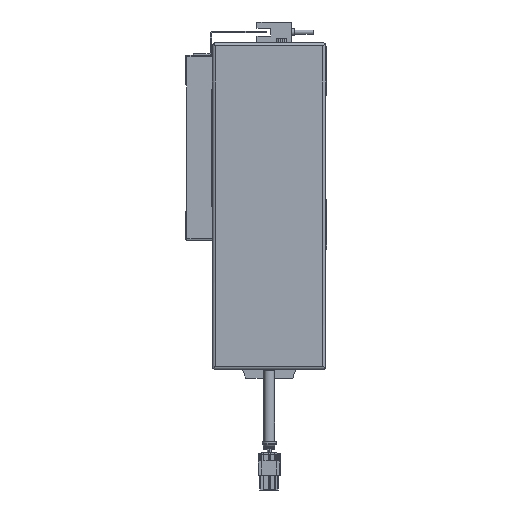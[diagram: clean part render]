
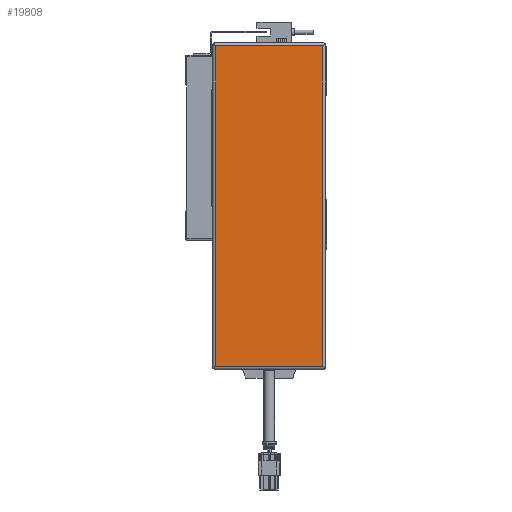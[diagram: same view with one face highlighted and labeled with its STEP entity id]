
A CAD part, left-side view. The second image highlights one B-rep face of the part: STEP entity #19808.
In plain terms, the highlighted planar face has unit normal (-1, 0, 0).
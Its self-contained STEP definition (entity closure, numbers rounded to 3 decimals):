
#4728=ORIENTED_EDGE('',*,*,#8402,.F.);
#4729=ORIENTED_EDGE('',*,*,#8403,.F.);
#4730=ORIENTED_EDGE('',*,*,#8404,.T.);
#4731=ORIENTED_EDGE('',*,*,#8405,.T.);
#8402=EDGE_CURVE('',#10583,#10584,#12684,.T.);
#8403=EDGE_CURVE('',#10585,#10583,#12685,.T.);
#8404=EDGE_CURVE('',#10585,#10586,#12686,.T.);
#8405=EDGE_CURVE('',#10586,#10584,#12687,.T.);
#10583=VERTEX_POINT('',#31608);
#10584=VERTEX_POINT('',#31609);
#10585=VERTEX_POINT('',#31611);
#10586=VERTEX_POINT('',#31613);
#12684=LINE('',#31607,#14781);
#12685=LINE('',#31610,#14782);
#12686=LINE('',#31612,#14783);
#12687=LINE('',#31614,#14784);
#14781=VECTOR('',#25759,1000.);
#14782=VECTOR('',#25760,1000.);
#14783=VECTOR('',#25761,1000.);
#14784=VECTOR('',#25762,1000.);
#16349=EDGE_LOOP('',(#4728,#4729,#4730,#4731));
#17772=FACE_BOUND('',#16349,.T.);
#18826=PLANE('',#21410);
#19808=ADVANCED_FACE('',(#17772),#18826,.F.);
#21410=AXIS2_PLACEMENT_3D('',#31606,#25757,#25758);
#25757=DIRECTION('',(1.,0.,0.));
#25758=DIRECTION('',(0.,0.,-1.));
#25759=DIRECTION('',(0.,0.,-1.));
#25760=DIRECTION('',(0.,-1.,0.));
#25761=DIRECTION('',(0.,0.,-1.));
#25762=DIRECTION('',(0.,-1.,0.));
#31606=CARTESIAN_POINT('',(-52.,2.,34.5));
#31607=CARTESIAN_POINT('',(-52.,2.,36.5));
#31608=CARTESIAN_POINT('',(-52.,2.,34.5));
#31609=CARTESIAN_POINT('',(-52.,2.,-34.5));
#31610=CARTESIAN_POINT('',(-52.,210.,34.5));
#31611=CARTESIAN_POINT('',(-52.,208.,34.5));
#31612=CARTESIAN_POINT('',(-52.,208.,36.5));
#31613=CARTESIAN_POINT('',(-52.,208.,-34.5));
#31614=CARTESIAN_POINT('',(-52.,210.,-34.5));
